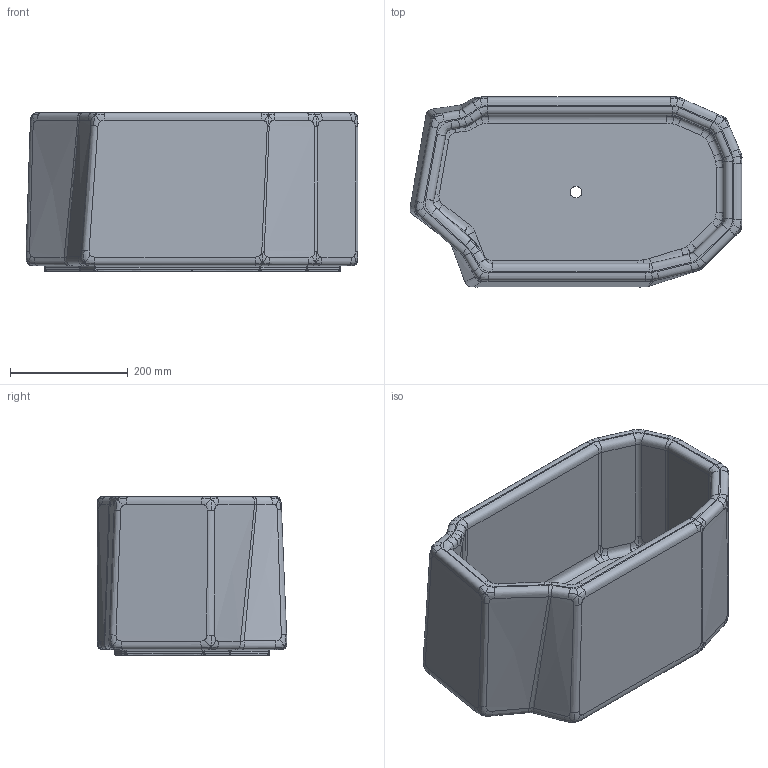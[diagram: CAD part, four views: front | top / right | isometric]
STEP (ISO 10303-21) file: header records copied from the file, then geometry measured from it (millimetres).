
FILE_DESCRIPTION(/* description */ (''),/* implementation_level */ '2;1');
FILE_NAME(/* name */ 'Staffa Planter_H27_3D',/* time_stamp */ '2026-02-02T14:56:17+01:00',/* author */ (''),/* organization */ (''),/* preprocessor_version */ 'ST-DEVELOPER v19.2',/* originating_system */ 'Rhino 8.27',/* authorisation */ '');
FILE_SCHEMA (('CONFIG_CONTROL_DESIGN'));
Length unit declared in the file: millimetre
Products named in the file (1): Document
Bounding box: 564.01 x 322.4 x 270.01 mm (x, y, z)
Surface area: 1020484.8 mm2 (no closed solid volume)
Topology: 0 solids, 3 shells, 585 faces, 1491 edges, 909 vertices
Faces by surface type: bspline 525, plane 46, cylinder 14
Entity records: 59729 total; most frequent: CARTESIAN_POINT 50294, ORIENTED_EDGE 2983, EDGE_CURVE 1496, B_SPLINE_CURVE_WITH_KNOTS 1482, VERTEX_POINT 910, EDGE_LOOP 586, ADVANCED_FACE 582, FACE_OUTER_BOUND 582
